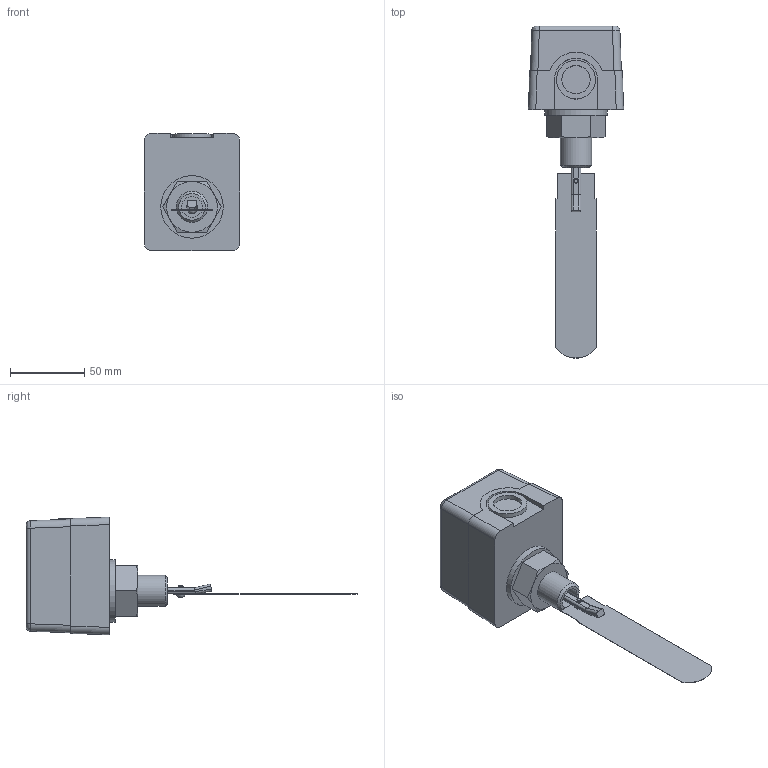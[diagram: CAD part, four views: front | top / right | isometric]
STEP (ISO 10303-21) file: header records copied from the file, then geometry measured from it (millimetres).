
FILE_DESCRIPTION(/* description */ ('РП-1-R1/2 Лопасть 124'),/* implementation_level */ '2;1');
FILE_NAME(/* name */ 'D:\STEP\РП\РП-1-R1_2 Лопасть 124.stp',/* time_stamp */ '2023-05-10T12:50:58+03:00',/* author */ ('Tech'),/* organization */ (''),/* preprocessor_version */ 'ST-DEVELOPER v18.1',/* originating_system */ 'Autodesk Inventor 2021',/* authorisation */ '');
FILE_SCHEMA (('AUTOMOTIVE_DESIGN { 1 0 10303 214 3 1 1 }'));
Length unit declared in the file: millimetre
Products named in the file (1): РП-1-R1/2 Лопасть 
124
Bounding box: 64 x 222.94 x 79 mm (x, y, z)
Volume: 283740 mm3; surface area: 38067.4 mm2
Topology: 4 solids, 4 shells, 197 faces, 507 edges, 338 vertices
Faces by surface type: plane 117, cylinder 65, cone 9, bspline 4, torus 1, sphere 1
Full cylindrical faces by diameter (mm): 2.584 x1, 3 x2, 3.2 x1, 4.5 x1, 5.115 x1, 5.5 x1, 7 x1, 14 x1, 19 x1, 20.955 x1, 26 x1, 42 x1
Entity records: 6214 total; most frequent: CARTESIAN_POINT 1198, DIRECTION 1050, ORIENTED_EDGE 1012, EDGE_CURVE 506, AXIS2_PLACEMENT_3D 370, VERTEX_POINT 338, LINE 310, VECTOR 310
